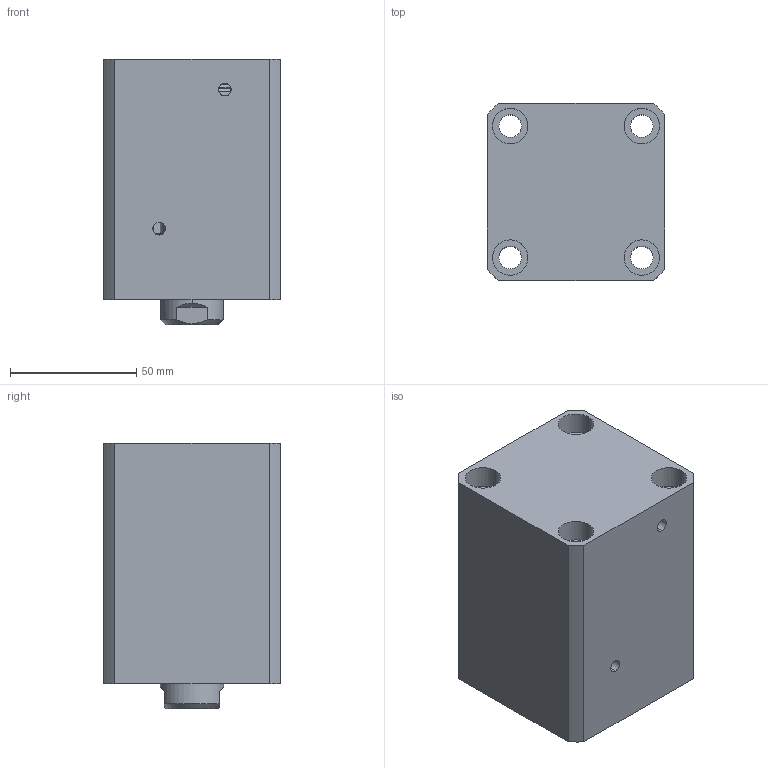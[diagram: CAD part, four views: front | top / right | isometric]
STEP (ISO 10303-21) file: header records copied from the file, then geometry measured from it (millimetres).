
FILE_DESCRIPTION (( 'STEP AP214' ), '1' );
FILE_NAME ('chtb-sdma40x40n_asm.STEP', '2018-06-06T07:54:26', ( 'Windows' ), ( 'Microsoft' ), 'SwSTEP 2.0', 'SolidWorks 2015', '' );
FILE_SCHEMA (( 'AUTOMOTIVE_DESIGN' ));
Length unit declared in the file: millimetre
Products named in the file (4): CHTB-SDMA40X40NBT; CHTB-SD40X40NHSG; CHTB-SD40QG; chtb-sdma40x40n_asm
Assembly tree (3 placements, depth 2):
  chtb-sdma40x40n_asm
    CHTB-SD40QG
    CHTB-SD40X40NHSG
    CHTB-SDMA40X40NBT
Bounding box: 70 x 70 x 105 mm (x, y, z)
Volume: 393758 mm3; surface area: 83595.8 mm2
Topology: 3 solids, 3 shells, 157 faces, 413 edges, 274 vertices
Faces by surface type: cylinder 84, plane 36, bspline 14, torus 14, cone 9
Entity records: 10139 total; most frequent: CARTESIAN_POINT 6157, ORIENTED_EDGE 814, DIRECTION 768, EDGE_CURVE 407, AXIS2_PLACEMENT_3D 326, VERTEX_POINT 274, EDGE_LOOP 193, CIRCLE 177
